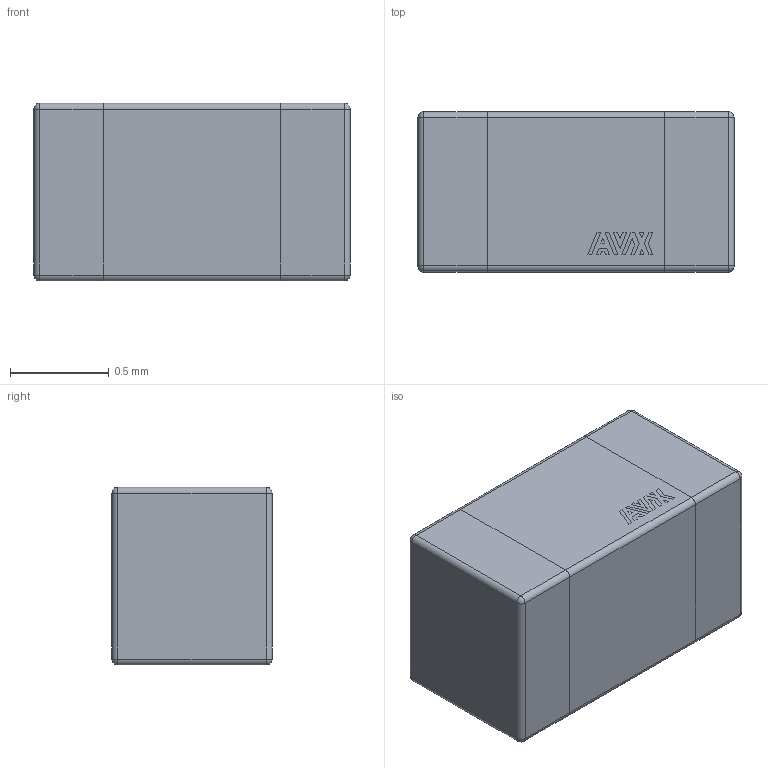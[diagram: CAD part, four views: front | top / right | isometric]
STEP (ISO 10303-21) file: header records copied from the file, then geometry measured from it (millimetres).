
FILE_DESCRIPTION(/* description */ (''),/* implementation_level */ '2;1');
FILE_NAME(/* name */ 'D:\Upverter\3D\AVX\0603YA0R5BAT2A\0603YA0R5BAT2A.stp',/* time_stamp */ '2021-03-19T20:24:05+02:00',/* author */ ('AbuBakr'),/* organization */ (''),/* preprocessor_version */ 'ST-DEVELOPER v17',/* originating_system */ 'Autodesk Inventor 2019',/* authorisation */ '');
FILE_SCHEMA (('AUTOMOTIVE_DESIGN { 1 0 10303 214 3 1 1 }'));
Length unit declared in the file: millimetre
Products named in the file (4): 0603YA0R5BAT2A; Body; Terminals; AVX
Assembly tree (3 placements, depth 2):
  0603YA0R5BAT2A
    Body
    Terminals
    AVX
Bounding box: 1.6 x 0.81 x 0.9 mm (x, y, z)
Volume: 1.2 mm3; surface area: 9.7 mm2
Topology: 12 solids, 12 shells, 110 faces, 234 edges, 148 vertices
Faces by surface type: plane 82, cylinder 20, sphere 8
Entity records: 3130 total; most frequent: DIRECTION 508, CARTESIAN_POINT 499, ORIENTED_EDGE 468, EDGE_CURVE 234, LINE 194, VECTOR 194, AXIS2_PLACEMENT_3D 157, VERTEX_POINT 148
